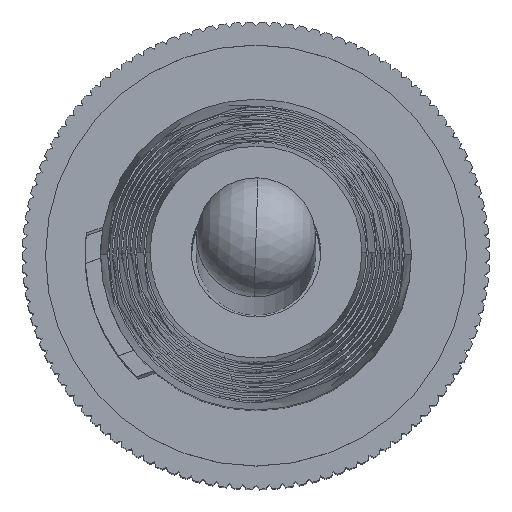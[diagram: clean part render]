
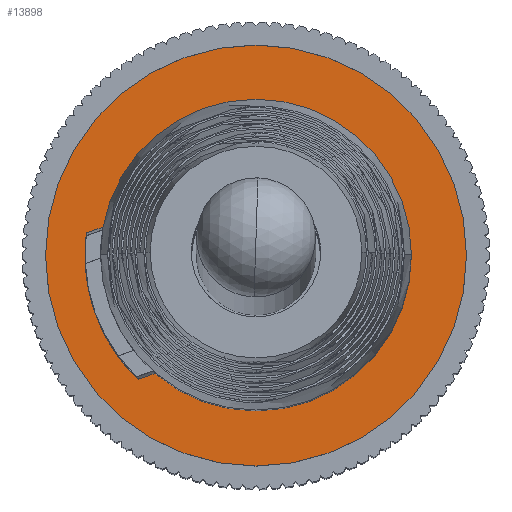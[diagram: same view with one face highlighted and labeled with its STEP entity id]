
A CAD part, top view. The second image highlights one B-rep face of the part: STEP entity #13898.
In plain terms, the highlighted planar face has unit normal (0, 0, 1).
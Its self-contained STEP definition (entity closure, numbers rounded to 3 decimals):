
#282 = AXIS2_PLACEMENT_3D ( 'NONE', #18653, #5209, #20916 ) ;
#1654 = CARTESIAN_POINT ( 'NONE',  ( -2.121, 0., 13.65 ) ) ;
#2130 = DIRECTION ( 'NONE',  ( -1., 0., 0. ) ) ;
#2893 = DIRECTION ( 'NONE',  ( 0., 0., 1. ) ) ;
#4381 = CARTESIAN_POINT ( 'NONE',  ( 2.121, 0., 13.65 ) ) ;
#5209 = DIRECTION ( 'NONE',  ( 0., 0., 1. ) ) ;
#7567 = CARTESIAN_POINT ( 'NONE',  ( 0., 0., 13.65 ) ) ;
#9820 = DIRECTION ( 'NONE',  ( -1., 0., 0. ) ) ;
#10446 = VERTEX_POINT ( 'NONE', #4381 ) ;
#11482 = VERTEX_POINT ( 'NONE', #28857 ) ;
#11865 = AXIS2_PLACEMENT_3D ( 'NONE', #16346, #2893, #18591 ) ;
#11947 = DIRECTION ( 'NONE',  ( 0., 0., 1. ) ) ;
#12208 = AXIS2_PLACEMENT_3D ( 'NONE', #7567, #23246, #9820 ) ;
#13898 = ADVANCED_FACE ( 'NONE', ( #17301, #18031 ), #16351, .T. ) ;
#14240 = ORIENTED_EDGE ( 'NONE', *, *, #27901, .T. ) ;
#14270 = ORIENTED_EDGE ( 'NONE', *, *, #26859, .T. ) ;
#15628 = DIRECTION ( 'NONE',  ( 0., 0., 1. ) ) ;
#16346 = CARTESIAN_POINT ( 'NONE',  ( 0., 0., 13.65 ) ) ;
#16351 = PLANE ( 'NONE',  #20060 ) ;
#16579 = CIRCLE ( 'NONE', #23862, 2.121 ) ;
#17301 = FACE_OUTER_BOUND ( 'NONE', #18747, .T. ) ;
#18031 = FACE_BOUND ( 'NONE', #21002, .T. ) ;
#18591 = DIRECTION ( 'NONE',  ( -1., 0., 0. ) ) ;
#18653 = CARTESIAN_POINT ( 'NONE',  ( 0., 0., 13.65 ) ) ;
#18747 = EDGE_LOOP ( 'NONE', ( #14240, #14270 ) ) ;
#19364 = VERTEX_POINT ( 'NONE', #24678 ) ;
#20060 = AXIS2_PLACEMENT_3D ( 'NONE', #25360, #11947, #27637 ) ;
#20131 = EDGE_CURVE ( 'NONE', #10446, #22520, #22800, .T. ) ;
#20916 = DIRECTION ( 'NONE',  ( -1., 0., 0. ) ) ;
#21002 = EDGE_LOOP ( 'NONE', ( #27325, #27896 ) ) ;
#22520 = VERTEX_POINT ( 'NONE', #1654 ) ;
#22624 = EDGE_CURVE ( 'NONE', #22520, #10446, #16579, .T. ) ;
#22800 = CIRCLE ( 'NONE', #282, 2.121 ) ;
#22888 = CIRCLE ( 'NONE', #12208, 4.064 ) ;
#23246 = DIRECTION ( 'NONE',  ( 0., 0., 1. ) ) ;
#23862 = AXIS2_PLACEMENT_3D ( 'NONE', #29051, #15628, #2130 ) ;
#24678 = CARTESIAN_POINT ( 'NONE',  ( 4.064, 0., 13.65 ) ) ;
#25360 = CARTESIAN_POINT ( 'NONE',  ( 0., 0., 13.65 ) ) ;
#25635 = CIRCLE ( 'NONE', #11865, 4.064 ) ;
#26859 = EDGE_CURVE ( 'NONE', #19364, #11482, #22888, .T. ) ;
#27325 = ORIENTED_EDGE ( 'NONE', *, *, #22624, .F. ) ;
#27637 = DIRECTION ( 'NONE',  ( -1., 0., 0. ) ) ;
#27896 = ORIENTED_EDGE ( 'NONE', *, *, #20131, .F. ) ;
#27901 = EDGE_CURVE ( 'NONE', #11482, #19364, #25635, .T. ) ;
#28857 = CARTESIAN_POINT ( 'NONE',  ( -4.064, 0., 13.65 ) ) ;
#29051 = CARTESIAN_POINT ( 'NONE',  ( 0., 0., 13.65 ) ) ;
